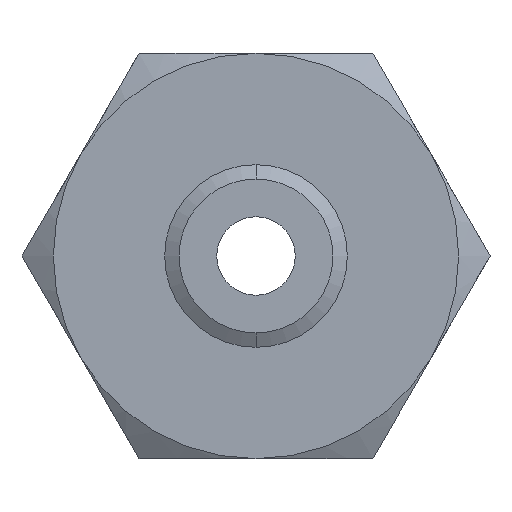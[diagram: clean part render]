
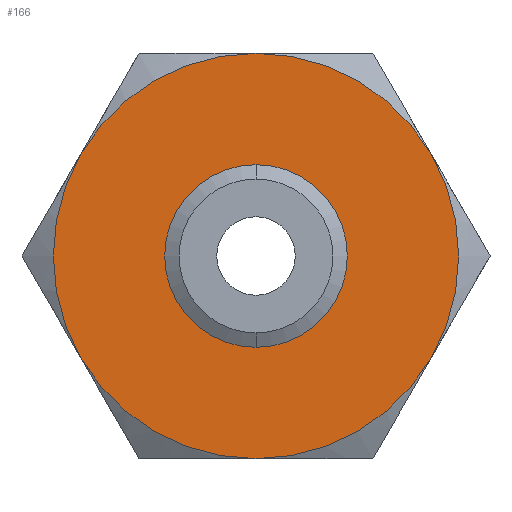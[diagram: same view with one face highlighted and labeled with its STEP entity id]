
A CAD part, front view. The second image highlights one B-rep face of the part: STEP entity #166.
In plain terms, the highlighted planar face has unit normal (0, -1, 0).
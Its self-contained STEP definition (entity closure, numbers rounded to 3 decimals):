
#78 = VERTEX_POINT ( 'NONE', #391 ) ;
#79 = EDGE_CURVE ( 'NONE', #78, #83, #390, .T. ) ;
#83 = VERTEX_POINT ( 'NONE', #385 ) ;
#86 = EDGE_CURVE ( 'NONE', #83, #78, #378, .T. ) ;
#87 = ORIENTED_EDGE ( 'NONE', *, *, #86, .F. ) ;
#88 = ORIENTED_EDGE ( 'NONE', *, *, #79, .F. ) ;
#104 = EDGE_CURVE ( 'NONE', #170, #107, #406, .T. ) ;
#105 = EDGE_LOOP ( 'NONE', ( #88, #87 ) ) ;
#106 = ORIENTED_EDGE ( 'NONE', *, *, #104, .F. ) ;
#107 = VERTEX_POINT ( 'NONE', #401 ) ;
#108 = ORIENTED_EDGE ( 'NONE', *, *, #111, .F. ) ;
#109 = VERTEX_POINT ( 'NONE', #400 ) ;
#110 = ORIENTED_EDGE ( 'NONE', *, *, #114, .F. ) ;
#111 = EDGE_CURVE ( 'NONE', #107, #109, #399, .T. ) ;
#112 = VERTEX_POINT ( 'NONE', #394 ) ;
#114 = EDGE_CURVE ( 'NONE', #109, #112, #393, .T. ) ;
#166 = ADVANCED_FACE ( 'NONE', ( #1000, #995 ), #994, .F. ) ;
#167 = ORIENTED_EDGE ( 'NONE', *, *, #168, .F. ) ;
#168 = EDGE_CURVE ( 'NONE', #169, #170, #988, .T. ) ;
#169 = VERTEX_POINT ( 'NONE', #984 ) ;
#170 = VERTEX_POINT ( 'NONE', #983 ) ;
#185 = ORIENTED_EDGE ( 'NONE', *, *, #186, .F. ) ;
#186 = EDGE_CURVE ( 'NONE', #187, #169, #1078, .T. ) ;
#187 = VERTEX_POINT ( 'NONE', #1073 ) ;
#188 = ORIENTED_EDGE ( 'NONE', *, *, #189, .F. ) ;
#189 = EDGE_CURVE ( 'NONE', #112, #187, #1072, .T. ) ;
#197 = EDGE_LOOP ( 'NONE', ( #167, #185, #188, #110, #108, #106 ) ) ;
#374 = DIRECTION ( 'NONE',  ( 0., 0., -1. ) ) ;
#375 = DIRECTION ( 'NONE',  ( 0., -1., 0. ) ) ;
#376 = CARTESIAN_POINT ( 'NONE',  ( 0., 0., 0. ) ) ;
#377 = AXIS2_PLACEMENT_3D ( 'NONE', #376, #375, #374 ) ;
#378 = CIRCLE ( 'NONE', #377, 29.426 ) ;
#385 = CARTESIAN_POINT ( 'NONE',  ( 0., 0., 29.426 ) ) ;
#386 = DIRECTION ( 'NONE',  ( 0., 0., -1. ) ) ;
#387 = DIRECTION ( 'NONE',  ( 0., -1., 0. ) ) ;
#388 = CARTESIAN_POINT ( 'NONE',  ( 0., 0., 0. ) ) ;
#389 = AXIS2_PLACEMENT_3D ( 'NONE', #388, #387, #386 ) ;
#390 = CIRCLE ( 'NONE', #389, 29.426 ) ;
#391 = CARTESIAN_POINT ( 'NONE',  ( 0., 0., -29.426 ) ) ;
#393 = CIRCLE ( 'NONE', #453, 77.5 ) ;
#394 = CARTESIAN_POINT ( 'NONE',  ( -67.117, 0., -38.75 ) ) ;
#395 = DIRECTION ( 'NONE',  ( 0., 0., 1. ) ) ;
#396 = DIRECTION ( 'NONE',  ( 0., 1., 0. ) ) ;
#397 = CARTESIAN_POINT ( 'NONE',  ( 0., 0., 0. ) ) ;
#398 = AXIS2_PLACEMENT_3D ( 'NONE', #397, #396, #395 ) ;
#399 = CIRCLE ( 'NONE', #398, 77.5 ) ;
#400 = CARTESIAN_POINT ( 'NONE',  ( 0., 0., -77.5 ) ) ;
#401 = CARTESIAN_POINT ( 'NONE',  ( 67.117, 0., -38.75 ) ) ;
#402 = DIRECTION ( 'NONE',  ( 0., 0., 1. ) ) ;
#403 = DIRECTION ( 'NONE',  ( 0., 1., 0. ) ) ;
#404 = CARTESIAN_POINT ( 'NONE',  ( 0., 0., 0. ) ) ;
#405 = AXIS2_PLACEMENT_3D ( 'NONE', #404, #403, #402 ) ;
#406 = CIRCLE ( 'NONE', #405, 77.5 ) ;
#450 = DIRECTION ( 'NONE',  ( 0., 0., 1. ) ) ;
#451 = DIRECTION ( 'NONE',  ( 0., 1., 0. ) ) ;
#452 = CARTESIAN_POINT ( 'NONE',  ( 0., 0., 0. ) ) ;
#453 = AXIS2_PLACEMENT_3D ( 'NONE', #452, #451, #450 ) ;
#983 = CARTESIAN_POINT ( 'NONE',  ( 67.117, 0., 38.75 ) ) ;
#984 = CARTESIAN_POINT ( 'NONE',  ( 0., 0., 77.5 ) ) ;
#985 = DIRECTION ( 'NONE',  ( 0., 0., 1. ) ) ;
#986 = DIRECTION ( 'NONE',  ( 0., 1., 0. ) ) ;
#987 = AXIS2_PLACEMENT_3D ( 'NONE', #992, #986, #985 ) ;
#988 = CIRCLE ( 'NONE', #987, 77.5 ) ;
#989 = DIRECTION ( 'NONE',  ( 0., 0., 1. ) ) ;
#990 = DIRECTION ( 'NONE',  ( 0., 1., 0. ) ) ;
#991 = CARTESIAN_POINT ( 'NONE',  ( 44.745, 0., -77.5 ) ) ;
#992 = CARTESIAN_POINT ( 'NONE',  ( 0., 0., 0. ) ) ;
#993 = AXIS2_PLACEMENT_3D ( 'NONE', #991, #990, #989 ) ;
#994 = PLANE ( 'NONE',  #993 ) ;
#995 = FACE_BOUND ( 'NONE', #105, .T. ) ;
#1000 = FACE_OUTER_BOUND ( 'NONE', #197, .T. ) ;
#1068 = DIRECTION ( 'NONE',  ( 0., 0., 1. ) ) ;
#1069 = DIRECTION ( 'NONE',  ( 0., 1., 0. ) ) ;
#1070 = CARTESIAN_POINT ( 'NONE',  ( 0., 0., 0. ) ) ;
#1071 = AXIS2_PLACEMENT_3D ( 'NONE', #1070, #1069, #1068 ) ;
#1072 = CIRCLE ( 'NONE', #1071, 77.5 ) ;
#1073 = CARTESIAN_POINT ( 'NONE',  ( -67.117, 0., 38.75 ) ) ;
#1074 = DIRECTION ( 'NONE',  ( 0., 0., 1. ) ) ;
#1075 = DIRECTION ( 'NONE',  ( 0., 1., 0. ) ) ;
#1076 = CARTESIAN_POINT ( 'NONE',  ( 0., 0., 0. ) ) ;
#1077 = AXIS2_PLACEMENT_3D ( 'NONE', #1076, #1075, #1074 ) ;
#1078 = CIRCLE ( 'NONE', #1077, 77.5 ) ;
